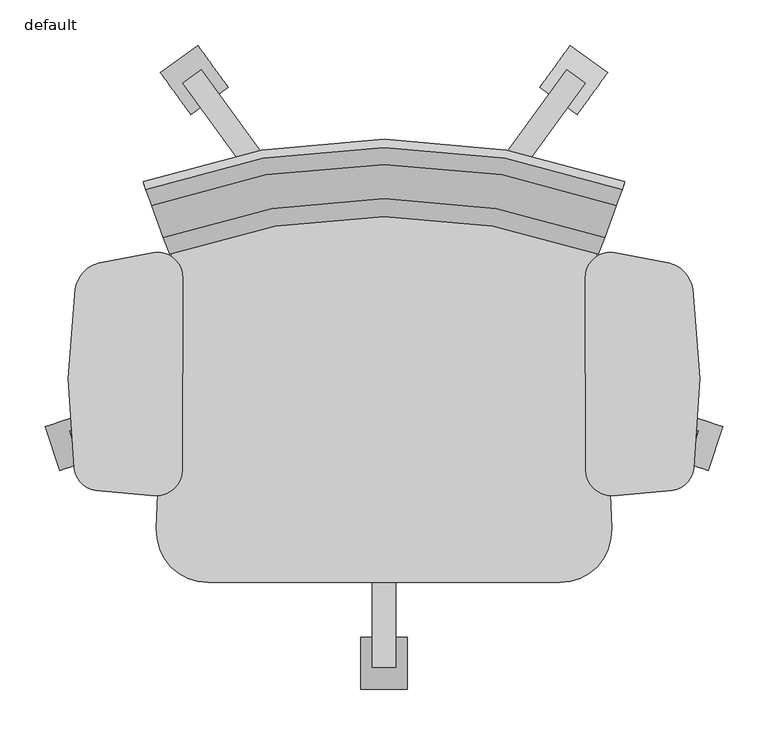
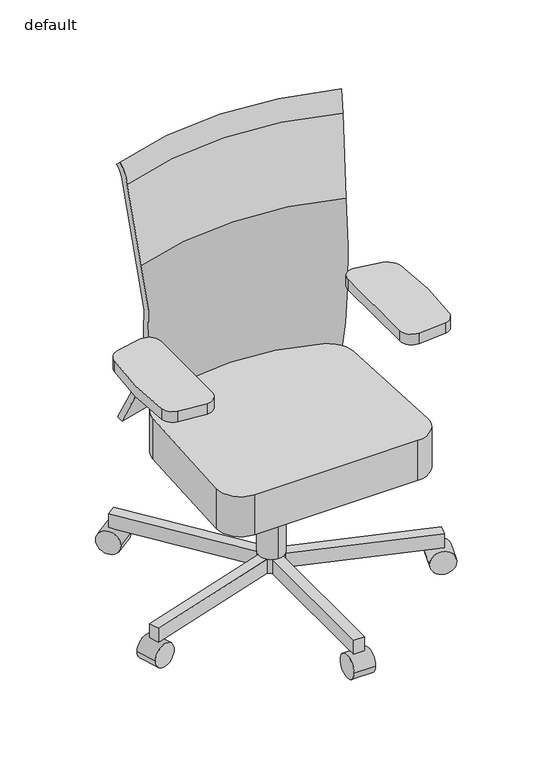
"""IFC4 building model written with IfcOpenShell, lengths in millimetres: furniture geometry, Fu_кресло офисное_LEG : default."""

from ifc_helpers import new_model, si_unit, point, frame, frame_2d, origin, place, context, project, spatial, polyline, circle_curve, ellipse_curve, trimmed, segment, composite_curve, outline, extrude, source, transform, mapped, element, save
from ifc_brep_helpers import plane_surface, revolved_surface, advanced_brep


def default_d962509c(model_context):
    return source(origin(), model_context, "Body", "SolidModel", [
        extrude(outline(composite_curve([segment(trimmed(circle_curve(frame_2d((0.0, -28.575)), 28.575), [point((-28.5749999, -28.575))], [point((28.575, -28.575))], False, "CARTESIAN"), True, "CONTINUOUS"), segment(trimmed(circle_curve(frame_2d((0.0, -28.575)), 28.575), [point((28.575, -28.575))], [point((-28.5749999, -28.575))], False, "CARTESIAN"), True, "CONTINUOUS")], self_intersect=False)), frame((-216.0466655, 40.4831528, 57.15), z_axis=(-0.3090169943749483, 0.9510565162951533, 0.0), x_axis=(-0.9510565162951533, -0.3090169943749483, 0.0)), (0.0, 0.0, 1.0), 50.8),
        extrude(outline(composite_curve([segment(trimmed(circle_curve(frame_2d((0.0, -28.575)), 28.575), [point((-28.575, -28.575))], [point((28.575, -28.575))], False, "CARTESIAN"), True, "CONTINUOUS"), segment(trimmed(circle_curve(frame_2d((0.0, -28.575)), 28.575), [point((28.575, -28.575))], [point((-28.575, -28.575))], False, "CARTESIAN"), True, "CONTINUOUS")], self_intersect=False)), frame((-115.2654674, 447.2831293, 57.15), z_axis=(0.8090169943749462, 0.5877852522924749, 0.0), x_axis=(-0.5877852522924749, 0.8090169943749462, 0.0)), (0.0, 0.0, 1.0), 50.8),
        extrude(outline(composite_curve([segment(trimmed(circle_curve(frame_2d((0.0, -28.575)), 28.575), [point((28.575, -28.575))], [point((-28.575, -28.575))], False, "CARTESIAN"), True, "CONTINUOUS"), segment(trimmed(circle_curve(frame_2d((0.0, -28.575)), 28.575), [point((-28.575, -28.575))], [point((28.575, -28.575))], False, "CARTESIAN"), True, "CONTINUOUS")], self_intersect=False)), frame((343.8654674, 447.2831293, 57.15), z_axis=(-0.8090169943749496, 0.5877852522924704, 0.0), x_axis=(-0.5877852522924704, -0.8090169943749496, 0.0)), (0.0, 0.0, 1.0), 50.8),
        extrude(outline(composite_curve([segment(trimmed(circle_curve(frame_2d((0.0, -28.575)), 28.575), [point((28.5749999, -28.575))], [point((-28.575, -28.575))], False, "CARTESIAN"), True, "CONTINUOUS"), segment(trimmed(circle_curve(frame_2d((0.0, -28.575)), 28.575), [point((-28.575, -28.575))], [point((28.5749999, -28.575))], False, "CARTESIAN"), True, "CONTINUOUS")], self_intersect=False)), frame((444.6466655, 40.4831528, 57.15), z_axis=(0.30901699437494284, 0.9510565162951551, 0.0), x_axis=(-0.9510565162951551, 0.30901699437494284, 0.0)), (0.0, 0.0, 1.0), 50.8),
        extrude(outline(composite_curve([segment(trimmed(circle_curve(frame_2d((-181.0735685, 28.575)), 28.575), [point((-152.4985685, 28.575))], [point((-209.6485685, 28.575))], False, "CARTESIAN"), True, "CONTINUOUS"), segment(trimmed(circle_curve(frame_2d((-181.0735685, 28.575)), 28.575), [point((-209.6485685, 28.575))], [point((-152.4985685, 28.575))], False, "CARTESIAN"), True, "CONTINUOUS")], self_intersect=False)), frame((88.9, 0.0, 0.0), z_axis=(1.0, 0.0, 0.0), x_axis=(0.0, 1.0, 0.0)), (0.0, 0.0, 1.0), 50.8),
        extrude(outline(composite_curve([segment(trimmed(circle_curve(frame_2d((-12984.0081879, 192.0228026)), 12876.8252415), [point((-107.2868789, 243.7589737))], [point((-108.1795769, 31.8170618))], False, "CARTESIAN"), True, "CONTINUOUS"), segment(trimmed(circle_curve(frame_2d((-136.7523652, 32.1725748)), 28.575), [point((-108.1795769, 31.8170618))], [point((-137.3924488, 3.6047447))], False, "CARTESIAN"), True, "CONTINUOUS"), segment(trimmed(circle_curve(frame_2d((-125.9404962, 514.7215236)), 511.2450576), [point((-137.3924488, 3.6047447))], [point((-203.2448485, 9.3547795))], False, "CARTESIAN"), True, "CONTINUOUS"), segment(trimmed(circle_curve(frame_2d((-198.9240794, 37.6012232)), 28.575), [point((-203.2448485, 9.3547795))], [point((-227.2377763, 33.7456825))], False, "CARTESIAN"), True, "CONTINUOUS"), segment(trimmed(circle_curve(frame_2d((461.3738842, 127.5155027)), 694.9667604), [point((-227.2377763, 33.7456825))], [point((-225.720055, 231.8261773))], False, "CARTESIAN"), True, "CONTINUOUS"), segment(trimmed(circle_curve(frame_2d((-191.1906974, 226.5841276)), 34.925), [point((-225.720055, 231.8261773))], [point((-200.073987, 260.360492))], False, "CARTESIAN"), True, "CONTINUOUS"), segment(trimmed(circle_curve(frame_2d((-83.8527439, -181.5401137)), 456.9283561), [point((-200.073987, 260.360492))], [point((-139.3311074, 272.0077601))], False, "CARTESIAN"), True, "CONTINUOUS"), segment(trimmed(circle_curve(frame_2d((-135.8616483, 243.6441658)), 28.575), [point((-139.3311074, 272.0077601))], [point((-107.2868789, 243.7589737))], False, "CARTESIAN"), True, "CONTINUOUS")], self_intersect=False)), frame((0.0, 0.0, 627.9602843), z_axis=(0.0, 0.0, 1.0), x_axis=(1.0, 0.0, 0.0)), (0.0, 0.0, 1.0), 26.0897157),
        extrude(outline(composite_curve([segment(trimmed(circle_curve(frame_2d((13212.6081878, 192.0228026)), 12876.8252414), [point((336.7795769, 31.8170618))], [point((335.8868789, 243.7589737))], False, "CARTESIAN"), True, "CONTINUOUS"), segment(trimmed(circle_curve(frame_2d((364.4616483, 243.6441658)), 28.575), [point((335.8868789, 243.7589737))], [point((367.9311074, 272.0077601))], False, "CARTESIAN"), True, "CONTINUOUS"), segment(trimmed(circle_curve(frame_2d((312.4527439, -181.5401137)), 456.9283561), [point((367.9311074, 272.0077601))], [point((428.673987, 260.360492))], False, "CARTESIAN"), True, "CONTINUOUS"), segment(trimmed(circle_curve(frame_2d((419.7906974, 226.5841276)), 34.925), [point((428.673987, 260.360492))], [point((454.320055, 231.8261773))], False, "CARTESIAN"), True, "CONTINUOUS"), segment(trimmed(circle_curve(frame_2d((-232.7738842, 127.5155027)), 694.9667604), [point((454.320055, 231.8261773))], [point((455.8377763, 33.7456825))], False, "CARTESIAN"), True, "CONTINUOUS"), segment(trimmed(circle_curve(frame_2d((427.5240794, 37.6012232)), 28.575), [point((455.8377763, 33.7456825))], [point((431.8448485, 9.3547795))], False, "CARTESIAN"), True, "CONTINUOUS"), segment(trimmed(circle_curve(frame_2d((354.5404962, 514.7215236)), 511.2450576), [point((431.8448485, 9.3547795))], [point((365.9924488, 3.6047447))], False, "CARTESIAN"), True, "CONTINUOUS"), segment(trimmed(circle_curve(frame_2d((365.3523652, 32.1725748)), 28.575), [point((365.9924488, 3.6047447))], [point((336.7795769, 31.8170618))], False, "CARTESIAN"), True, "CONTINUOUS")], self_intersect=False)), frame((0.0, 0.0, 627.9602843), z_axis=(0.0, 0.0, 1.0), x_axis=(1.0, 0.0, 0.0)), (0.0, 0.0, 1.0), 26.0897157),
        extrude(outline(polyline([(127.0, 147.1679519), (127.0, -185.6982191), (101.6, -185.6982191), (101.6, 147.1679519), (92.2050555, 153.9937786), (-224.3694855, 51.1324749), (-232.2185172, 75.2893104), (84.3560239, 178.1506141), (87.9445733, 189.1950338), (-107.709253, 458.489423), (-87.1602213, 473.4191684), (108.493605, 204.1247792), (120.106395, 204.1247792), (315.7602213, 473.4191684), (336.309253, 458.489423), (140.6554267, 189.1950338), (144.2439761, 178.1506141), (460.8185172, 75.2893104), (452.9694855, 51.1324749), (136.3949445, 153.9937786), (127.0, 147.1679519)])), frame((0.0, 0.0, 56.9294454), z_axis=(0.0, 0.0, 1.0), x_axis=(1.0, 0.0, 0.0)), (0.0, 0.0, 1.0), 35.1455546),
        extrude(outline(composite_curve([segment(trimmed(circle_curve(frame_2d((114.3, 174.5264315)), 30.1625), [point((114.3, 144.3639315))], [point((114.3, 204.6889315))], False, "CARTESIAN"), True, "CONTINUOUS"), segment(trimmed(circle_curve(frame_2d((114.3, 174.5264315)), 30.1625), [point((114.3, 204.6889315))], [point((114.3, 144.3639315))], False, "CARTESIAN"), True, "CONTINUOUS")], self_intersect=False)), frame((0.0, 0.0, 92.075), z_axis=(0.0, 0.0, 1.0), x_axis=(1.0, 0.0, 0.0)), (0.0, 0.0, 1.0), 271.4758732),
        extrude(outline(composite_curve([segment(polyline([(307.9581747, -92.1738495), (-79.3581747, -92.1738495)]), True, "CONTINUOUS"), segment(trimmed(circle_curve(frame_2d((-79.3581747, -35.0238495)), 57.15), [point((-79.3581747, -92.1738495))], [point((-136.4562745, -32.5887929))], False, "CARTESIAN"), True, "CONTINUOUS"), segment(polyline([(-136.4562745, -32.5887929), (-124.4804072, 248.2257408)]), True, "CONTINUOUS"), segment(trimmed(circle_curve(frame_2d((-61.0380741, 245.5201224)), 63.5), [point((-124.4804072, 248.2257408))], [point((-84.7324084, 304.4338604))], False, "CARTESIAN"), True, "CONTINUOUS"), segment(trimmed(circle_curve(frame_2d((114.3, -190.4415385)), 533.4), [point((-84.7324084, 304.4338604))], [point((313.3324084, 304.4338604))], False, "CARTESIAN"), True, "CONTINUOUS"), segment(trimmed(circle_curve(frame_2d((289.6380741, 245.5201224)), 63.5), [point((313.3324084, 304.4338604))], [point((353.0804072, 248.2257408))], False, "CARTESIAN"), True, "CONTINUOUS"), segment(polyline([(353.0804072, 248.2257408), (365.0562745, -32.5887929)]), True, "CONTINUOUS"), segment(trimmed(circle_curve(frame_2d((307.9581747, -35.0238495)), 57.15), [point((365.0562745, -32.5887929))], [point((307.9581747, -92.1738495))], False, "CARTESIAN"), True, "CONTINUOUS")], self_intersect=False)), frame((0.0, 0.0, 363.5508732), z_axis=(0.0, 0.0, 1.0), x_axis=(1.0, 0.0, 0.0)), (0.0, 0.0, 1.0), 100.3786029),
        advanced_brep(
        [(-150.3862901, 347.7125744, 416.8439307), (-146.5571681, 337.1921483, 410.8204529), (-128.7431819, 288.2486235, 823.5544399), (-141.6342752, 323.6666111, 1010.7113315), (-148.0622144, 341.3272291, 1058.3613489), (-151.1706881, 349.8676903, 1049.2727798), (-145.9516701, 335.5285561, 1009.3169282), (-132.9086282, 299.6930932, 819.9539996), (378.9936167, 347.7125744, 416.8439307), (361.5159549, 299.6930932, 819.9539996), (374.5589968, 335.5285561, 1009.3169282), (379.7780148, 349.8676903, 1049.2727798), (376.6695411, 341.3272291, 1058.3613489), (370.2416018, 323.6666111, 1010.7113315), (357.3505086, 288.2486235, 823.5544399), (375.1644948, 337.1921483, 410.8204529)],
        [
            (0, 1),
            (1, 2, circle_curve(frame((-298.7334456, 755.2930344, 676.6218554), z_axis=(-0.9396926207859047, -0.34202014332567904, 0.0), x_axis=(0.34202014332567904, -0.9396926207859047, 0.0)), 518.28212)),
            (2, 3, circle_curve(frame((224.6470845, -682.6831538, 1129.0104353), z_axis=(0.9396926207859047, 0.34202014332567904, 0.0), x_axis=(0.34202014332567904, -0.9396926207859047, 0.0)), 1077.4490993)),
            (3, 4, circle_curve(frame((-174.7954627, 414.7762249, 1000.001153), z_axis=(-0.9396926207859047, -0.34202014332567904, 0.0), x_axis=(0.34202014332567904, -0.9396926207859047, 0.0)), 97.5465736)),
            (4, 5),
            (5, 6, circle_curve(frame((-174.7954627, 414.7762249, 1000.001153), z_axis=(0.9396926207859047, 0.34202014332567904, 0.0), x_axis=(0.34202014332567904, -0.9396926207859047, 0.0)), 84.8465736)),
            (6, 7, circle_curve(frame((224.6470845, -682.6831538, 1129.0104353), z_axis=(-0.9396926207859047, -0.34202014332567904, 0.0), x_axis=(0.34202014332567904, -0.9396926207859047, 0.0)), 1090.1490993)),
            (7, 0, circle_curve(frame((-298.7334456, 755.2930344, 676.6218554), z_axis=(0.9396926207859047, 0.34202014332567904, 0.0), x_axis=(0.34202014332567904, -0.9396926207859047, 0.0)), 505.58212)),
            (8, 9, circle_curve(frame((527.3407723, 755.2930344, 676.6218554), z_axis=(-0.9396926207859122, 0.34202014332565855, 0.0), x_axis=(-0.34202014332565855, -0.9396926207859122, 0.0)), 505.58212)),
            (9, 10, circle_curve(frame((3.9602422, -682.6831538, 1129.0104353), z_axis=(0.9396926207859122, -0.34202014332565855, 0.0), x_axis=(-0.34202014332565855, -0.9396926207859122, 0.0)), 1090.1490993)),
            (10, 11, circle_curve(frame((403.4027893, 414.7762249, 1000.001153), z_axis=(-0.9396926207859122, 0.34202014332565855, 0.0), x_axis=(-0.34202014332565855, -0.9396926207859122, 0.0)), 84.8465736)),
            (11, 12),
            (12, 13, circle_curve(frame((403.4027893, 414.7762249, 1000.001153), z_axis=(0.9396926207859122, -0.34202014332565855, 0.0), x_axis=(-0.34202014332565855, -0.9396926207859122, 0.0)), 97.5465736)),
            (13, 14, circle_curve(frame((3.9602422, -682.6831538, 1129.0104353), z_axis=(-0.9396926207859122, 0.34202014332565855, 0.0), x_axis=(-0.34202014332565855, -0.9396926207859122, 0.0)), 1077.4490993)),
            (14, 15, circle_curve(frame((527.3407723, 755.2930344, 676.6218554), z_axis=(0.9396926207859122, -0.34202014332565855, 0.0), x_axis=(-0.34202014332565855, -0.9396926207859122, 0.0)), 518.28212)),
            (15, 8),
            (15, 1, circle_curve(frame((114.3036633, -379.5170957, 410.8204529), z_axis=(0.0, 0.0, 1.0), x_axis=(-0.34202014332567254, 0.939692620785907, 0.0)), 762.7060469)),
            (0, 8, circle_curve(frame((114.3036633, -379.5170957, 416.8439307), z_axis=(0.0, 0.0, -1.0), x_axis=(-0.34202014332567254, 0.939692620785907, 0.0)), 773.9016504)),
            (14, 2, circle_curve(frame((114.3036633, -379.5170957, 823.5544399), z_axis=(0.0, 0.0, 1.0), x_axis=(-0.34202014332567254, 0.939692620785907, 0.0)), 710.6214356)),
            (13, 3, circle_curve(frame((114.3036633, -379.5170957, 1010.7113315), z_axis=(0.0, 0.0, 1.0), x_axis=(-0.34202014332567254, 0.939692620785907, 0.0)), 748.3124708)),
            (12, 4, circle_curve(frame((114.3036633, -379.5170957, 1058.3613489), z_axis=(0.0, 0.0, 1.0), x_axis=(-0.34202014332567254, 0.939692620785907, 0.0)), 767.1065079)),
            (11, 5, circle_curve(frame((114.3036633, -379.5170957, 1049.2727798), z_axis=(0.0, 0.0, 1.0), x_axis=(-0.34202014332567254, 0.939692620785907, 0.0)), 776.1950769)),
            (10, 6, circle_curve(frame((114.3036633, -379.5170957, 1009.3169282), z_axis=(0.0, 0.0, 1.0), x_axis=(-0.34202014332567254, 0.939692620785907, 0.0)), 760.935689)),
            (9, 7, circle_curve(frame((114.3036633, -379.5170957, 819.9539996), z_axis=(0.0, 0.0, 1.0), x_axis=(-0.34202014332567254, 0.939692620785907, 0.0)), 722.8003859)),
        ],
        [
            plane_surface(frame((-121.5076811, 268.3692483, 666.0100314), z_axis=(-0.939692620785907, -0.34202014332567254, 0.0), x_axis=(0.0, 0.0, 1.0))),
            plane_surface(frame((350.1150077, 268.3692483, 666.0100314), z_axis=(0.9396926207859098, -0.342020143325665, 0.0), x_axis=(0.0, 0.0, 1.0))),
            revolved_surface(polyline([(-150.3862901, 347.7125744, 416.8439307), (-146.5571681, 337.1921483, 410.8204529)]), (114.3036633, -379.5170957, 666.0100314), (0.0, 0.0, -1.0)),
            revolved_surface(trimmed(ellipse_curve(frame((-298.7334456, 755.2930344, 676.6218554), z_axis=(-0.9396926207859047, -0.34202014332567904, 0.0), x_axis=(0.34202014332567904, -0.9396926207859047, 0.0)), 518.28212, 518.28212), [point((-146.5571681, 337.1921483, 410.8204529))], [point((-128.7431819, 288.2486235, 823.5544399))], True, "CARTESIAN"), (114.3036633, -379.5170957, 666.0100314), (0.0, 0.0, -1.0)),
            revolved_surface(trimmed(ellipse_curve(frame((224.6470845, -682.6831538, 1129.0104353), z_axis=(0.9396926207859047, 0.34202014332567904, 0.0), x_axis=(0.34202014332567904, -0.9396926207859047, 0.0)), 1077.4490993, 1077.4490993), [point((-128.7431819, 288.2486235, 823.5544399))], [point((-141.6342752, 323.6666111, 1010.7113315))], True, "CARTESIAN"), (114.3036633, -379.5170957, 666.0100314), (0.0, 0.0, -1.0)),
            revolved_surface(trimmed(ellipse_curve(frame((-174.7954627, 414.7762249, 1000.001153), z_axis=(-0.9396926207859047, -0.34202014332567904, 0.0), x_axis=(0.34202014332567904, -0.9396926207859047, 0.0)), 97.5465736, 97.5465736), [point((-141.6342752, 323.6666111, 1010.7113315))], [point((-148.0622144, 341.3272291, 1058.3613489))], True, "CARTESIAN"), (114.3036633, -379.5170957, 666.0100314), (0.0, 0.0, -1.0)),
            revolved_surface(polyline([(-148.0622144, 341.3272291, 1058.3613489), (-151.1706881, 349.8676903, 1049.2727798)]), (114.3036633, -379.5170957, 666.0100314), (0.0, 0.0, -1.0)),
            revolved_surface(trimmed(ellipse_curve(frame((-174.7954627, 414.7762249, 1000.001153), z_axis=(0.9396926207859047, 0.34202014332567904, 0.0), x_axis=(0.34202014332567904, -0.9396926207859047, 0.0)), 84.8465736, 84.8465736), [point((-151.1706881, 349.8676903, 1049.2727798))], [point((-145.9516701, 335.5285561, 1009.3169282))], True, "CARTESIAN"), (114.3036633, -379.5170957, 666.0100314), (0.0, 0.0, -1.0)),
            revolved_surface(trimmed(ellipse_curve(frame((224.6470845, -682.6831538, 1129.0104353), z_axis=(-0.9396926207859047, -0.34202014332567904, 0.0), x_axis=(0.34202014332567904, -0.9396926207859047, 0.0)), 1090.1490993, 1090.1490993), [point((-145.9516701, 335.5285561, 1009.3169282))], [point((-132.9086282, 299.6930932, 819.9539996))], True, "CARTESIAN"), (114.3036633, -379.5170957, 666.0100314), (0.0, 0.0, -1.0)),
            revolved_surface(trimmed(ellipse_curve(frame((-298.7334456, 755.2930344, 676.6218554), z_axis=(0.9396926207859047, 0.34202014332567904, 0.0), x_axis=(0.34202014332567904, -0.9396926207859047, 0.0)), 505.58212, 505.58212), [point((-132.9086282, 299.6930932, 819.9539996))], [point((-150.3862901, 347.7125744, 416.8439307))], True, "CARTESIAN"), (114.3036633, -379.5170957, 666.0100314), (0.0, 0.0, -1.0)),
        ],
        [
            (0, [[1, 2, 3, 4, 5, 6, 7, 8]]),
            (1, [[9, 10, 11, 12, 13, 14, 15, 16]]),
            (2, [[17, -1, 18, -16]]),
            (3, [[19, -2, -17, -15]]),
            (4, [[20, -3, -19, -14]]),
            (5, [[21, -4, -20, -13]]),
            (6, [[22, -5, -21, -12]]),
            (7, [[23, -6, -22, -11]]),
            (8, [[24, -7, -23, -10]]),
            (9, [[-18, -8, -24, -9]]),
        ],
    ),
    ])


if __name__ == "__main__":
    model = new_model("IFC4")
    model_context = context("Model", 3, world=origin())
    ifc_project = project(units=[si_unit("LENGTHUNIT", "METRE", prefix="MILLI")], contexts=[model_context])
    site = spatial("IfcSite", under=ifc_project)
    building = spatial("IfcBuilding", under=site)
    placement = place(None, origin())
    default_shape = default_d962509c(model_context)
    element("IfcFurniture", 1, ObjectType="Fu_кресло офисное_LEG : default", at=placement, inside=building, context=model_context, shape_type="MappedRepresentation", body=[
        mapped(default_shape, transform((0.0, 0.0, 0.0), x_axis=(1.0, 0.0, 0.0), y_axis=(0.0, 1.0, 0.0), z_axis=(0.0, 0.0, 1.0))),
    ])
    save(model, "model.ifc")
